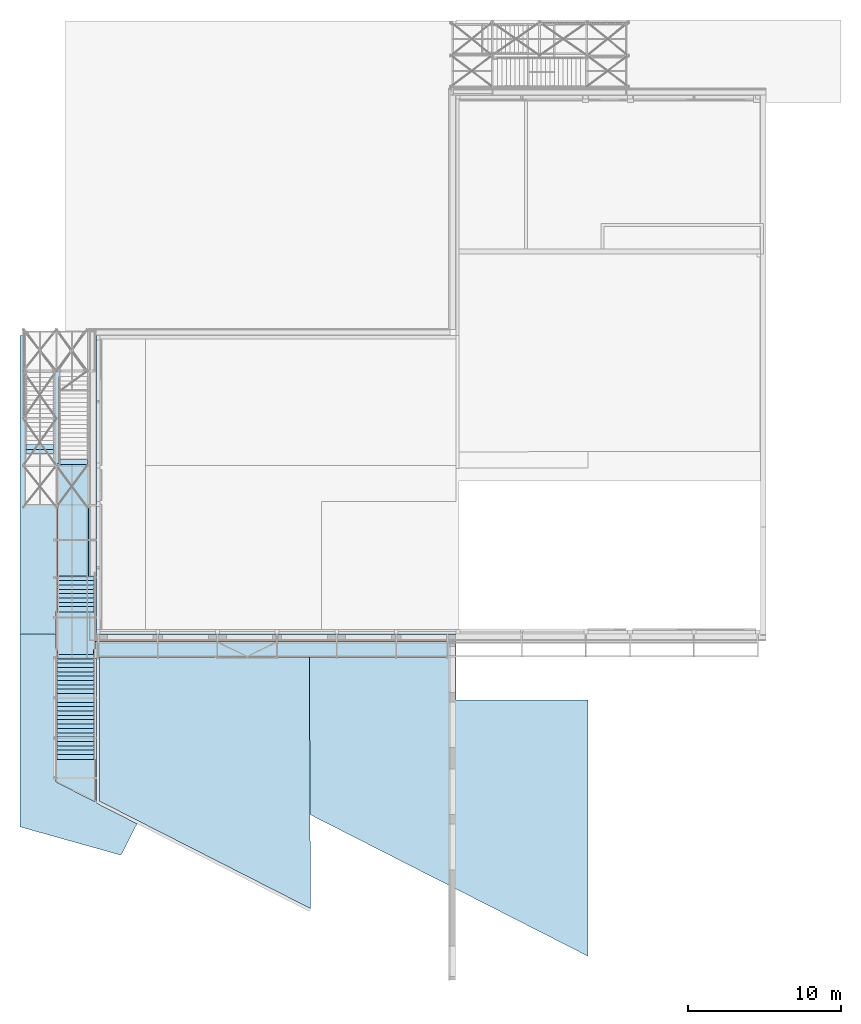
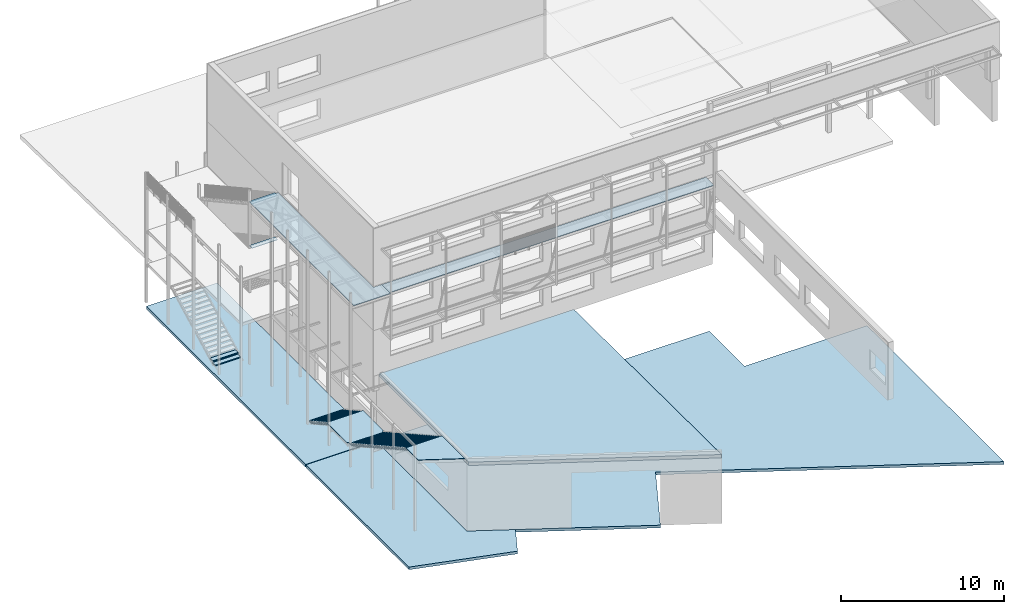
# One storey, part 57 of 78: 40 plates, 4 slabs, 44 elements without a shape of their own.
"""IFC2X3 building model written with IfcOpenShell, lengths in millimetres."""

from ifc_helpers import new_model, si_unit, frame, origin_with_axes, place, context, subcontext, project, spatial, polyline, outline, extrude, material, type_object, element, aggregate, save


model = new_model("IFC2X3")

# Units and contexts
model_context = context("Model", 3, precision=1e-05, world=origin_with_axes())
body_context = subcontext(model_context, "Body", "Model", "MODEL_VIEW")
ifc_project = project(units=[si_unit("LENGTHUNIT", "METRE", prefix="MILLI"), si_unit("AREAUNIT", "SQUARE_METRE"), si_unit("VOLUMEUNIT", "CUBIC_METRE"), si_unit("MASSUNIT", "GRAM", prefix="KILO"), si_unit("TIMEUNIT", "SECOND"), si_unit("PLANEANGLEUNIT", "RADIAN"), si_unit("SOLIDANGLEUNIT", "STERADIAN"), si_unit("THERMODYNAMICTEMPERATUREUNIT", "DEGREE_CELSIUS"), si_unit("LUMINOUSINTENSITYUNIT", "LUMEN")], contexts=[model_context])

# Site, building, storey
site_placement = place(None, origin_with_axes())
site = spatial("IfcSite", under=ifc_project, at=site_placement, Name="Site", CompositionType="ELEMENT")
building_placement = place(site_placement, origin_with_axes())
building = spatial("IfcBuilding", under=site, at=building_placement, Name="Undefined", CompositionType="ELEMENT")
storey_placement = place(building_placement, origin_with_axes())
storey = spatial("IfcBuildingStorey", under=building, at=storey_placement, Name="Undefined", CompositionType="ELEMENT", Elevation=0.0)

# Assembly, plate
assembly_1_placement = place(storey_placement, origin_with_axes())
assembly_1 = element("IfcElementAssembly", 1, at=assembly_1_placement, inside=storey, AssemblyPlace="NOTDEFINED", PredefinedType="RIGID_FRAME")
ifc_material_1 = material(Name="STEEL/S235JR")
plate_type_1 = type_object("IfcPlateType", Name="PL30*2885", PredefinedType="NOTDEFINED")
plate_1_placement = place(assembly_1_placement, frame((-30696.4300000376, -5607.00405367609, 149410.040013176), z_axis=(0.0, 0.0, 1.0), x_axis=(-1.0, 0.0, 0.0)))
plate_1 = element("IfcPlate", 2, at=plate_1_placement, type_object=plate_type_1, material=ifc_material_1, Name="CAILLEBOTIS", ObjectType="PL30*2885", context=body_context, shape_type="SweptSolid", body=[
    extrude(outline(polyline([(0.0, 0.0), (2559.99999996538, -7.93079379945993e-10), (2560.00000040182, 2496.22999985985), (2475.00000045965, 2496.22999983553), (2475.00000051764, 2884.99999977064), (85.0000005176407, 2885.00000154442), (85.0000003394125, 2496.23000029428), (3.97216354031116e-07, 2496.23000614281), (0.0, 0.0)])), frame((0.0, 0.0, -15.0), z_axis=(0.0, 0.0, 1.0), x_axis=(1.0, 0.0, 0.0)), (0.0, 0.0, 1.0), 30.0),
])
aggregate(assembly_1, [plate_1])

assembly_2_placement = place(storey_placement, origin_with_axes())
assembly_2 = element("IfcElementAssembly", 3, at=assembly_2_placement, inside=storey, Name="MARCHE", AssemblyPlace="NOTDEFINED", PredefinedType="RIGID_FRAME")
plate_type_2 = type_object("IfcPlateType", Name="PL1800*70", PredefinedType="NOTDEFINED")
plate_2_placement = place(assembly_2_placement, frame((-32082.8599999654, 4002.99999995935, 156542.540000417), z_axis=(-1.0, 0.0, 0.0), x_axis=(0.0, 1.0, 0.0)))
plate_2 = element("IfcPlate", 4, at=plate_2_placement, type_object=plate_type_2, material=ifc_material_1, Name="MARCHE", ObjectType="PL1800*70", context=body_context, shape_type="SweptSolid", body=[
    extrude(outline(polyline([(0.0, 0.0), (330.0, 0.0), (330.0, 70.0), (40.0, 70.0), (0.0, 40.0), (0.0, 0.0)])), frame((0.0, 0.0, -900.0), z_axis=(0.0, 0.0, 1.0), x_axis=(1.0, 0.0, 0.0)), (0.0, 0.0, 1.0), 1800.0),
])
aggregate(assembly_2, [plate_2])

assembly_3_placement = place(storey_placement, origin_with_axes())
assembly_3 = element("IfcElementAssembly", 5, at=assembly_3_placement, inside=storey, Name="MARCHE", AssemblyPlace="NOTDEFINED", PredefinedType="RIGID_FRAME")
plate_3_placement = place(assembly_3_placement, frame((-32082.8599999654, 4002.99999995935, 159842.540000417), z_axis=(-1.0, 0.0, 0.0), x_axis=(0.0, 1.0, 0.0)))
plate_3 = element("IfcPlate", 6, at=plate_3_placement, type_object=plate_type_2, material=ifc_material_1, Name="MARCHE", ObjectType="PL1800*70", context=body_context, shape_type="SweptSolid", body=[
    extrude(outline(polyline([(0.0, 0.0), (330.0, 0.0), (330.0, 70.0), (40.0, 70.0), (0.0, 40.0), (0.0, 0.0)])), frame((0.0, 0.0, -900.0), z_axis=(0.0, 0.0, 1.0), x_axis=(1.0, 0.0, 0.0)), (0.0, 0.0, 1.0), 1800.0),
])
aggregate(assembly_3, [plate_3])

assembly_4_placement = place(storey_placement, origin_with_axes())
assembly_4 = element("IfcElementAssembly", 7, at=assembly_4_placement, inside=storey, Name="MARCHE", AssemblyPlace="NOTDEFINED", PredefinedType="RIGID_FRAME")
plate_4_placement = place(assembly_4_placement, frame((-34301.4299999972, 5305.00000000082, 148299.040000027), z_axis=(1.0, 0.0, 0.0), x_axis=(0.0, -1.0, 0.0)))
plate_4 = element("IfcPlate", 8, at=plate_4_placement, type_object=plate_type_2, material=ifc_material_1, Name="MARCHE", ObjectType="PL1800*70", context=body_context, shape_type="SweptSolid", body=[
    extrude(outline(polyline([(0.0, 0.0), (330.0, 0.0), (330.0, 70.0), (40.0, 70.0), (0.0, 40.0), (0.0, 0.0)])), frame((0.0, 0.0, -900.0), z_axis=(0.0, 0.0, 1.0), x_axis=(1.0, 0.0, 0.0)), (0.0, 0.0, 1.0), 1800.0),
])
aggregate(assembly_4, [plate_4])

assembly_5_placement = place(storey_placement, origin_with_axes())
assembly_5 = element("IfcElementAssembly", 9, at=assembly_5_placement, inside=storey, Name="MARCHE", AssemblyPlace="NOTDEFINED", PredefinedType="RIGID_FRAME")
plate_5_placement = place(assembly_5_placement, frame((-34301.429999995, 5011.00000000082, 148146.040000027), z_axis=(1.0, 0.0, 0.0), x_axis=(0.0, -1.0, 0.0)))
plate_5 = element("IfcPlate", 10, at=plate_5_placement, type_object=plate_type_2, material=ifc_material_1, Name="MARCHE", ObjectType="PL1800*70", context=body_context, shape_type="SweptSolid", body=[
    extrude(outline(polyline([(0.0, 0.0), (330.0, 0.0), (330.0, 70.0), (40.0, 70.0), (0.0, 40.0), (0.0, 0.0)])), frame((0.0, 0.0, -900.0), z_axis=(0.0, 0.0, 1.0), x_axis=(1.0, 0.0, 0.0)), (0.0, 0.0, 1.0), 1800.0),
])
aggregate(assembly_5, [plate_5])

assembly_6_placement = place(storey_placement, origin_with_axes())
assembly_6 = element("IfcElementAssembly", 11, at=assembly_6_placement, inside=storey, AssemblyPlace="NOTDEFINED", PredefinedType="RIGID_FRAME")
plate_type_3 = type_object("IfcPlateType", Name="PL30*2560", PredefinedType="NOTDEFINED")
plate_6_placement = place(assembly_6_placement, frame((-33256.4300000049, -15282.0004629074, 153385.040012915), z_axis=(0.0, 0.0, 1.0), x_axis=(0.0, -1.0, 0.0)))
plate_6 = element("IfcPlate", 12, at=plate_6_placement, type_object=plate_type_3, material=ifc_material_1, Name="CAILLEBOTIS", ObjectType="PL30*2560", context=body_context, shape_type="SweptSolid", body=[
    extrude(outline(polyline([(0.0, 0.0), (1505.6095371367, 7.27595761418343e-12), (2808.5375033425, 2559.99999992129), (7.00389682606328e-06, 2559.9999999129), (0.0, 0.0)])), frame((0.0, 0.0, -15.0), z_axis=(0.0, 0.0, 1.0), x_axis=(1.0, 0.0, 0.0)), (0.0, 0.0, 1.0), 30.0),
])
aggregate(assembly_6, [plate_6])

assembly_7_placement = place(storey_placement, origin_with_axes())
assembly_7 = element("IfcElementAssembly", 13, at=assembly_7_placement, inside=storey, Name="MARCHE", AssemblyPlace="NOTDEFINED", PredefinedType="RIGID_FRAME")
plate_type_4 = type_object("IfcPlateType", Name="PL2400*70", PredefinedType="NOTDEFINED")
plate_7_placement = place(assembly_7_placement, frame((-31976.4300000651, -15327.0040538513, 153241.040013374), z_axis=(-1.0, 0.0, 0.0), x_axis=(0.0, 1.0, 0.0)))
plate_7 = element("IfcPlate", 14, at=plate_7_placement, type_object=plate_type_4, material=ifc_material_1, Name="MARCHE", ObjectType="PL2400*70", context=body_context, shape_type="SweptSolid", body=[
    extrude(outline(polyline([(0.0, 0.0), (330.0, 0.0), (330.0, 70.0), (40.0, 70.0), (0.0, 40.0), (0.0, 0.0)])), frame((0.0, 0.0, -1200.0), z_axis=(0.0, 0.0, 1.0), x_axis=(1.0, 0.0, 0.0)), (0.0, 0.0, 1.0), 2400.0),
])
aggregate(assembly_7, [plate_7])

assembly_8_placement = place(storey_placement, origin_with_axes())
assembly_8 = element("IfcElementAssembly", 15, at=assembly_8_placement, inside=storey, Name="MARCHE", AssemblyPlace="NOTDEFINED", PredefinedType="RIGID_FRAME")
plate_8_placement = place(assembly_8_placement, frame((-31976.4300000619, -15042.0040538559, 153082.040013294), z_axis=(-1.0, 0.0, 0.0), x_axis=(0.0, 1.0, 0.0)))
plate_8 = element("IfcPlate", 16, at=plate_8_placement, type_object=plate_type_4, material=ifc_material_1, Name="MARCHE", ObjectType="PL2400*70", context=body_context, shape_type="SweptSolid", body=[
    extrude(outline(polyline([(0.0, 0.0), (330.0, 0.0), (330.0, 70.0), (40.0, 70.0), (0.0, 40.0), (0.0, 0.0)])), frame((0.0, 0.0, -1200.0), z_axis=(0.0, 0.0, 1.0), x_axis=(1.0, 0.0, 0.0)), (0.0, 0.0, 1.0), 2400.0),
])
aggregate(assembly_8, [plate_8])

assembly_9_placement = place(storey_placement, origin_with_axes())
assembly_9 = element("IfcElementAssembly", 17, at=assembly_9_placement, inside=storey, Name="MARCHE", AssemblyPlace="NOTDEFINED", PredefinedType="RIGID_FRAME")
plate_9_placement = place(assembly_9_placement, frame((-31976.4300000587, -14757.0040538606, 152923.040013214), z_axis=(-1.0, 0.0, 0.0), x_axis=(0.0, 1.0, 0.0)))
plate_9 = element("IfcPlate", 18, at=plate_9_placement, type_object=plate_type_4, material=ifc_material_1, Name="MARCHE", ObjectType="PL2400*70", context=body_context, shape_type="SweptSolid", body=[
    extrude(outline(polyline([(0.0, 0.0), (330.0, 0.0), (330.0, 70.0), (40.0, 70.0), (0.0, 40.0), (0.0, 0.0)])), frame((0.0, 0.0, -1200.0), z_axis=(0.0, 0.0, 1.0), x_axis=(1.0, 0.0, 0.0)), (0.0, 0.0, 1.0), 2400.0),
])
aggregate(assembly_9, [plate_9])

assembly_10_placement = place(storey_placement, origin_with_axes())
assembly_10 = element("IfcElementAssembly", 19, at=assembly_10_placement, inside=storey, Name="MARCHE", AssemblyPlace="NOTDEFINED", PredefinedType="RIGID_FRAME")
plate_10_placement = place(assembly_10_placement, frame((-31976.4300000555, -14472.0040538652, 152764.040013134), z_axis=(-1.0, 0.0, 0.0), x_axis=(0.0, 1.0, 0.0)))
plate_10 = element("IfcPlate", 20, at=plate_10_placement, type_object=plate_type_4, material=ifc_material_1, Name="MARCHE", ObjectType="PL2400*70", context=body_context, shape_type="SweptSolid", body=[
    extrude(outline(polyline([(0.0, 0.0), (330.0, 0.0), (330.0, 70.0), (40.0, 70.0), (0.0, 40.0), (0.0, 0.0)])), frame((0.0, 0.0, -1200.0), z_axis=(0.0, 0.0, 1.0), x_axis=(1.0, 0.0, 0.0)), (0.0, 0.0, 1.0), 2400.0),
])
aggregate(assembly_10, [plate_10])

assembly_11_placement = place(storey_placement, origin_with_axes())
assembly_11 = element("IfcElementAssembly", 21, at=assembly_11_placement, inside=storey, Name="MARCHE", AssemblyPlace="NOTDEFINED", PredefinedType="RIGID_FRAME")
plate_11_placement = place(assembly_11_placement, frame((-31976.4300000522, -14187.0040538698, 152605.040013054), z_axis=(-1.0, 0.0, 0.0), x_axis=(0.0, 1.0, 0.0)))
plate_11 = element("IfcPlate", 22, at=plate_11_placement, type_object=plate_type_4, material=ifc_material_1, Name="MARCHE", ObjectType="PL2400*70", context=body_context, shape_type="SweptSolid", body=[
    extrude(outline(polyline([(0.0, 0.0), (330.0, 0.0), (330.0, 70.0), (40.0, 70.0), (0.0, 40.0), (0.0, 0.0)])), frame((0.0, 0.0, -1200.0), z_axis=(0.0, 0.0, 1.0), x_axis=(1.0, 0.0, 0.0)), (0.0, 0.0, 1.0), 2400.0),
])
aggregate(assembly_11, [plate_11])

assembly_12_placement = place(storey_placement, origin_with_axes())
assembly_12 = element("IfcElementAssembly", 23, at=assembly_12_placement, inside=storey, Name="MARCHE", AssemblyPlace="NOTDEFINED", PredefinedType="RIGID_FRAME")
plate_12_placement = place(assembly_12_placement, frame((-31976.430000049, -13902.0040538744, 152446.040012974), z_axis=(-1.0, 0.0, 0.0), x_axis=(0.0, 1.0, 0.0)))
plate_12 = element("IfcPlate", 24, at=plate_12_placement, type_object=plate_type_4, material=ifc_material_1, Name="MARCHE", ObjectType="PL2400*70", context=body_context, shape_type="SweptSolid", body=[
    extrude(outline(polyline([(0.0, 0.0), (330.0, 0.0), (330.0, 70.0), (40.0, 70.0), (0.0, 40.0), (0.0, 0.0)])), frame((0.0, 0.0, -1200.0), z_axis=(0.0, 0.0, 1.0), x_axis=(1.0, 0.0, 0.0)), (0.0, 0.0, 1.0), 2400.0),
])
aggregate(assembly_12, [plate_12])

assembly_13_placement = place(storey_placement, origin_with_axes())
assembly_13 = element("IfcElementAssembly", 25, at=assembly_13_placement, inside=storey, Name="MARCHE", AssemblyPlace="NOTDEFINED", PredefinedType="RIGID_FRAME")
plate_13_placement = place(assembly_13_placement, frame((-31976.4300000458, -13617.0040538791, 152287.040012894), z_axis=(-1.0, 0.0, 0.0), x_axis=(0.0, 1.0, 0.0)))
plate_13 = element("IfcPlate", 26, at=plate_13_placement, type_object=plate_type_4, material=ifc_material_1, Name="MARCHE", ObjectType="PL2400*70", context=body_context, shape_type="SweptSolid", body=[
    extrude(outline(polyline([(0.0, 0.0), (330.0, 0.0), (330.0, 70.0), (40.0, 70.0), (0.0, 40.0), (0.0, 0.0)])), frame((0.0, 0.0, -1200.0), z_axis=(0.0, 0.0, 1.0), x_axis=(1.0, 0.0, 0.0)), (0.0, 0.0, 1.0), 2400.0),
])
aggregate(assembly_13, [plate_13])

assembly_14_placement = place(storey_placement, origin_with_axes())
assembly_14 = element("IfcElementAssembly", 27, at=assembly_14_placement, inside=storey, Name="MARCHE", AssemblyPlace="NOTDEFINED", PredefinedType="RIGID_FRAME")
plate_14_placement = place(assembly_14_placement, frame((-31976.4300000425, -13332.0040538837, 152128.040012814), z_axis=(-1.0, 0.0, 0.0), x_axis=(0.0, 1.0, 0.0)))
plate_14 = element("IfcPlate", 28, at=plate_14_placement, type_object=plate_type_4, material=ifc_material_1, Name="MARCHE", ObjectType="PL2400*70", context=body_context, shape_type="SweptSolid", body=[
    extrude(outline(polyline([(0.0, 0.0), (330.0, 0.0), (330.0, 70.0), (40.0, 70.0), (0.0, 40.0), (0.0, 0.0)])), frame((0.0, 0.0, -1200.0), z_axis=(0.0, 0.0, 1.0), x_axis=(1.0, 0.0, 0.0)), (0.0, 0.0, 1.0), 2400.0),
])
aggregate(assembly_14, [plate_14])

assembly_15_placement = place(storey_placement, origin_with_axes())
assembly_15 = element("IfcElementAssembly", 29, at=assembly_15_placement, inside=storey, Name="MARCHE", AssemblyPlace="NOTDEFINED", PredefinedType="RIGID_FRAME")
plate_15_placement = place(assembly_15_placement, frame((-31976.4300000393, -13047.0040538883, 151969.040012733), z_axis=(-1.0, 0.0, 0.0), x_axis=(0.0, 1.0, 0.0)))
plate_15 = element("IfcPlate", 30, at=plate_15_placement, type_object=plate_type_4, material=ifc_material_1, Name="MARCHE", ObjectType="PL2400*70", context=body_context, shape_type="SweptSolid", body=[
    extrude(outline(polyline([(0.0, 0.0), (330.0, 0.0), (330.0, 70.0), (40.0, 70.0), (0.0, 40.0), (0.0, 0.0)])), frame((0.0, 0.0, -1200.0), z_axis=(0.0, 0.0, 1.0), x_axis=(1.0, 0.0, 0.0)), (0.0, 0.0, 1.0), 2400.0),
])
aggregate(assembly_15, [plate_15])

assembly_16_placement = place(storey_placement, origin_with_axes())
assembly_16 = element("IfcElementAssembly", 31, at=assembly_16_placement, inside=storey, Name="MARCHE", AssemblyPlace="NOTDEFINED", PredefinedType="RIGID_FRAME")
plate_16_placement = place(assembly_16_placement, frame((-31976.4300000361, -12762.0040538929, 151810.040012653), z_axis=(-1.0, 0.0, 0.0), x_axis=(0.0, 1.0, 0.0)))
plate_16 = element("IfcPlate", 32, at=plate_16_placement, type_object=plate_type_4, material=ifc_material_1, Name="MARCHE", ObjectType="PL2400*70", context=body_context, shape_type="SweptSolid", body=[
    extrude(outline(polyline([(0.0, 0.0), (330.0, 0.0), (330.0, 70.0), (40.0, 70.0), (0.0, 40.0), (0.0, 0.0)])), frame((0.0, 0.0, -1200.0), z_axis=(0.0, 0.0, 1.0), x_axis=(1.0, 0.0, 0.0)), (0.0, 0.0, 1.0), 2400.0),
])
aggregate(assembly_16, [plate_16])

assembly_17_placement = place(storey_placement, origin_with_axes())
assembly_17 = element("IfcElementAssembly", 33, at=assembly_17_placement, inside=storey, Name="MARCHE", AssemblyPlace="NOTDEFINED", PredefinedType="RIGID_FRAME")
plate_17_placement = place(assembly_17_placement, frame((-31976.4300000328, -12477.0040538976, 151651.040012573), z_axis=(-1.0, 0.0, 0.0), x_axis=(0.0, 1.0, 0.0)))
plate_17 = element("IfcPlate", 34, at=plate_17_placement, type_object=plate_type_4, material=ifc_material_1, Name="MARCHE", ObjectType="PL2400*70", context=body_context, shape_type="SweptSolid", body=[
    extrude(outline(polyline([(0.0, 0.0), (330.0, 0.0), (330.0, 70.0), (40.0, 70.0), (0.0, 40.0), (0.0, 0.0)])), frame((0.0, 0.0, -1200.0), z_axis=(0.0, 0.0, 1.0), x_axis=(1.0, 0.0, 0.0)), (0.0, 0.0, 1.0), 2400.0),
])
aggregate(assembly_17, [plate_17])

assembly_18_placement = place(storey_placement, origin_with_axes())
assembly_18 = element("IfcElementAssembly", 35, at=assembly_18_placement, inside=storey, Name="MARCHE", AssemblyPlace="NOTDEFINED", PredefinedType="RIGID_FRAME")
plate_18_placement = place(assembly_18_placement, frame((-31976.4300000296, -12192.0040539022, 151492.040012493), z_axis=(-1.0, 0.0, 0.0), x_axis=(0.0, 1.0, 0.0)))
plate_18 = element("IfcPlate", 36, at=plate_18_placement, type_object=plate_type_4, material=ifc_material_1, Name="MARCHE", ObjectType="PL2400*70", context=body_context, shape_type="SweptSolid", body=[
    extrude(outline(polyline([(0.0, 0.0), (330.0, 0.0), (330.0, 70.0), (40.0, 70.0), (0.0, 40.0), (0.0, 0.0)])), frame((0.0, 0.0, -1200.0), z_axis=(0.0, 0.0, 1.0), x_axis=(1.0, 0.0, 0.0)), (0.0, 0.0, 1.0), 2400.0),
])
aggregate(assembly_18, [plate_18])

assembly_19_placement = place(storey_placement, origin_with_axes())
assembly_19 = element("IfcElementAssembly", 37, at=assembly_19_placement, inside=storey, Name="MARCHE", AssemblyPlace="NOTDEFINED", PredefinedType="RIGID_FRAME")
plate_19_placement = place(assembly_19_placement, frame((-31976.4300000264, -11907.0040539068, 151333.040012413), z_axis=(-1.0, 0.0, 0.0), x_axis=(0.0, 1.0, 0.0)))
plate_19 = element("IfcPlate", 38, at=plate_19_placement, type_object=plate_type_4, material=ifc_material_1, Name="MARCHE", ObjectType="PL2400*70", context=body_context, shape_type="SweptSolid", body=[
    extrude(outline(polyline([(0.0, 0.0), (330.0, 0.0), (330.0, 70.0), (40.0, 70.0), (0.0, 40.0), (0.0, 0.0)])), frame((0.0, 0.0, -1200.0), z_axis=(0.0, 0.0, 1.0), x_axis=(1.0, 0.0, 0.0)), (0.0, 0.0, 1.0), 2400.0),
])
aggregate(assembly_19, [plate_19])

assembly_20_placement = place(storey_placement, origin_with_axes())
assembly_20 = element("IfcElementAssembly", 39, at=assembly_20_placement, inside=storey, Name="MARCHE", AssemblyPlace="NOTDEFINED", PredefinedType="RIGID_FRAME")
plate_20_placement = place(assembly_20_placement, frame((-31976.4300000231, -11622.0040539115, 151174.040012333), z_axis=(-1.0, 0.0, 0.0), x_axis=(0.0, 1.0, 0.0)))
plate_20 = element("IfcPlate", 40, at=plate_20_placement, type_object=plate_type_4, material=ifc_material_1, Name="MARCHE", ObjectType="PL2400*70", context=body_context, shape_type="SweptSolid", body=[
    extrude(outline(polyline([(0.0, 0.0), (330.0, 0.0), (330.0, 70.0), (40.0, 70.0), (0.0, 40.0), (0.0, 0.0)])), frame((0.0, 0.0, -1200.0), z_axis=(0.0, 0.0, 1.0), x_axis=(1.0, 0.0, 0.0)), (0.0, 0.0, 1.0), 2400.0),
])
aggregate(assembly_20, [plate_20])

assembly_21_placement = place(storey_placement, origin_with_axes())
assembly_21 = element("IfcElementAssembly", 41, at=assembly_21_placement, inside=storey, Name="MARCHE", AssemblyPlace="NOTDEFINED", PredefinedType="RIGID_FRAME")
plate_21_placement = place(assembly_21_placement, frame((-31976.4300000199, -11337.0040539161, 151015.040012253), z_axis=(-1.0, 0.0, 0.0), x_axis=(0.0, 1.0, 0.0)))
plate_21 = element("IfcPlate", 42, at=plate_21_placement, type_object=plate_type_4, material=ifc_material_1, Name="MARCHE", ObjectType="PL2400*70", context=body_context, shape_type="SweptSolid", body=[
    extrude(outline(polyline([(0.0, 0.0), (330.0, 0.0), (330.0, 70.0), (40.0, 70.0), (0.0, 40.0), (0.0, 0.0)])), frame((0.0, 0.0, -1200.0), z_axis=(0.0, 0.0, 1.0), x_axis=(1.0, 0.0, 0.0)), (0.0, 0.0, 1.0), 2400.0),
])
aggregate(assembly_21, [plate_21])

assembly_22_placement = place(storey_placement, origin_with_axes())
assembly_22 = element("IfcElementAssembly", 43, at=assembly_22_placement, inside=storey, Name="MARCHE", AssemblyPlace="NOTDEFINED", PredefinedType="RIGID_FRAME")
plate_22_placement = place(assembly_22_placement, frame((-31976.4300000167, -11052.0040539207, 150856.040012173), z_axis=(-1.0, 0.0, 0.0), x_axis=(0.0, 1.0, 0.0)))
plate_22 = element("IfcPlate", 44, at=plate_22_placement, type_object=plate_type_4, material=ifc_material_1, Name="MARCHE", ObjectType="PL2400*70", context=body_context, shape_type="SweptSolid", body=[
    extrude(outline(polyline([(0.0, 0.0), (330.0, 0.0), (330.0, 70.0), (40.0, 70.0), (0.0, 40.0), (0.0, 0.0)])), frame((0.0, 0.0, -1200.0), z_axis=(0.0, 0.0, 1.0), x_axis=(1.0, 0.0, 0.0)), (0.0, 0.0, 1.0), 2400.0),
])
aggregate(assembly_22, [plate_22])

assembly_23_placement = place(storey_placement, origin_with_axes())
assembly_23 = element("IfcElementAssembly", 45, at=assembly_23_placement, inside=storey, Name="MARCHE", AssemblyPlace="NOTDEFINED", PredefinedType="RIGID_FRAME")
plate_23_placement = place(assembly_23_placement, frame((-31976.4300000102, -10482.00405393, 150538.040012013), z_axis=(-1.0, 0.0, 0.0), x_axis=(0.0, 1.0, 0.0)))
plate_23 = element("IfcPlate", 46, at=plate_23_placement, type_object=plate_type_4, material=ifc_material_1, Name="MARCHE", ObjectType="PL2400*70", context=body_context, shape_type="SweptSolid", body=[
    extrude(outline(polyline([(0.0, 0.0), (330.0, 0.0), (330.0, 70.0), (40.0, 70.0), (0.0, 40.0), (0.0, 0.0)])), frame((0.0, 0.0, -1200.0), z_axis=(0.0, 0.0, 1.0), x_axis=(1.0, 0.0, 0.0)), (0.0, 0.0, 1.0), 2400.0),
])
aggregate(assembly_23, [plate_23])

assembly_24_placement = place(storey_placement, origin_with_axes())
assembly_24 = element("IfcElementAssembly", 47, at=assembly_24_placement, inside=storey, Name="MARCHE", AssemblyPlace="NOTDEFINED", PredefinedType="RIGID_FRAME")
plate_24_placement = place(assembly_24_placement, frame((-31976.430000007, -10197.0040539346, 150379.040011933), z_axis=(-1.0, 0.0, 0.0), x_axis=(0.0, 1.0, 0.0)))
plate_24 = element("IfcPlate", 48, at=plate_24_placement, type_object=plate_type_4, material=ifc_material_1, Name="MARCHE", ObjectType="PL2400*70", context=body_context, shape_type="SweptSolid", body=[
    extrude(outline(polyline([(0.0, 0.0), (330.0, 0.0), (330.0, 70.0), (40.0, 70.0), (0.0, 40.0), (0.0, 0.0)])), frame((0.0, 0.0, -1200.0), z_axis=(0.0, 0.0, 1.0), x_axis=(1.0, 0.0, 0.0)), (0.0, 0.0, 1.0), 2400.0),
])
aggregate(assembly_24, [plate_24])

assembly_25_placement = place(storey_placement, origin_with_axes())
assembly_25 = element("IfcElementAssembly", 49, at=assembly_25_placement, inside=storey, Name="MARCHE", AssemblyPlace="NOTDEFINED", PredefinedType="RIGID_FRAME")
plate_25_placement = place(assembly_25_placement, frame((-31976.4300000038, -9912.00405393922, 150220.040011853), z_axis=(-1.0, 0.0, 0.0), x_axis=(0.0, 1.0, 0.0)))
plate_25 = element("IfcPlate", 50, at=plate_25_placement, type_object=plate_type_4, material=ifc_material_1, Name="MARCHE", ObjectType="PL2400*70", context=body_context, shape_type="SweptSolid", body=[
    extrude(outline(polyline([(0.0, 0.0), (330.0, 0.0), (330.0, 70.0), (40.0, 70.0), (0.0, 40.0), (0.0, 0.0)])), frame((0.0, 0.0, -1200.0), z_axis=(0.0, 0.0, 1.0), x_axis=(1.0, 0.0, 0.0)), (0.0, 0.0, 1.0), 2400.0),
])
aggregate(assembly_25, [plate_25])

assembly_26_placement = place(storey_placement, origin_with_axes())
assembly_26 = element("IfcElementAssembly", 51, at=assembly_26_placement, inside=storey, Name="MARCHE", AssemblyPlace="NOTDEFINED", PredefinedType="RIGID_FRAME")
plate_26_placement = place(assembly_26_placement, frame((-31976.4300000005, -9627.00405394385, 150061.040011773), z_axis=(-1.0, 0.0, 0.0), x_axis=(0.0, 1.0, 0.0)))
plate_26 = element("IfcPlate", 52, at=plate_26_placement, type_object=plate_type_4, material=ifc_material_1, Name="MARCHE", ObjectType="PL2400*70", context=body_context, shape_type="SweptSolid", body=[
    extrude(outline(polyline([(0.0, 0.0), (330.0, 0.0), (330.0, 70.0), (40.0, 70.0), (0.0, 40.0), (0.0, 0.0)])), frame((0.0, 0.0, -1200.0), z_axis=(0.0, 0.0, 1.0), x_axis=(1.0, 0.0, 0.0)), (0.0, 0.0, 1.0), 2400.0),
])
aggregate(assembly_26, [plate_26])

assembly_27_placement = place(storey_placement, origin_with_axes())
assembly_27 = element("IfcElementAssembly", 53, at=assembly_27_placement, inside=storey, Name="MARCHE", AssemblyPlace="NOTDEFINED", PredefinedType="RIGID_FRAME")
plate_27_placement = place(assembly_27_placement, frame((-31976.4299999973, -9342.00405394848, 149902.040011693), z_axis=(-1.0, 0.0, 0.0), x_axis=(0.0, 1.0, 0.0)))
plate_27 = element("IfcPlate", 54, at=plate_27_placement, type_object=plate_type_4, material=ifc_material_1, Name="MARCHE", ObjectType="PL2400*70", context=body_context, shape_type="SweptSolid", body=[
    extrude(outline(polyline([(0.0, 0.0), (330.0, 0.0), (330.0, 70.0), (40.0, 70.0), (0.0, 40.0), (0.0, 0.0)])), frame((0.0, 0.0, -1200.0), z_axis=(0.0, 0.0, 1.0), x_axis=(1.0, 0.0, 0.0)), (0.0, 0.0, 1.0), 2400.0),
])
aggregate(assembly_27, [plate_27])

assembly_28_placement = place(storey_placement, origin_with_axes())
assembly_28 = element("IfcElementAssembly", 55, at=assembly_28_placement, inside=storey, Name="MARCHE", AssemblyPlace="NOTDEFINED", PredefinedType="RIGID_FRAME")
plate_28_placement = place(assembly_28_placement, frame((-31976.4299999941, -9057.00405395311, 149743.040011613), z_axis=(-1.0, 0.0, 0.0), x_axis=(0.0, 1.0, 0.0)))
plate_28 = element("IfcPlate", 56, at=plate_28_placement, type_object=plate_type_4, material=ifc_material_1, Name="MARCHE", ObjectType="PL2400*70", context=body_context, shape_type="SweptSolid", body=[
    extrude(outline(polyline([(0.0, 0.0), (330.0, 0.0), (330.0, 70.0), (40.0, 70.0), (0.0, 40.0), (0.0, 0.0)])), frame((0.0, 0.0, -1200.0), z_axis=(0.0, 0.0, 1.0), x_axis=(1.0, 0.0, 0.0)), (0.0, 0.0, 1.0), 2400.0),
])
aggregate(assembly_28, [plate_28])

assembly_29_placement = place(storey_placement, origin_with_axes())
assembly_29 = element("IfcElementAssembly", 57, at=assembly_29_placement, inside=storey, Name="MARCHE", AssemblyPlace="NOTDEFINED", PredefinedType="RIGID_FRAME")
plate_29_placement = place(assembly_29_placement, frame((-31976.4299999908, -8772.00405395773, 149584.040011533), z_axis=(-1.0, 0.0, 0.0), x_axis=(0.0, 1.0, 0.0)))
plate_29 = element("IfcPlate", 58, at=plate_29_placement, type_object=plate_type_4, material=ifc_material_1, Name="MARCHE", ObjectType="PL2400*70", context=body_context, shape_type="SweptSolid", body=[
    extrude(outline(polyline([(0.0, 0.0), (330.0, 0.0), (330.0, 70.0), (40.0, 70.0), (0.0, 40.0), (0.0, 0.0)])), frame((0.0, 0.0, -1200.0), z_axis=(0.0, 0.0, 1.0), x_axis=(1.0, 0.0, 0.0)), (0.0, 0.0, 1.0), 2400.0),
])
aggregate(assembly_29, [plate_29])

assembly_30_placement = place(storey_placement, origin_with_axes())
assembly_30 = element("IfcElementAssembly", 59, at=assembly_30_placement, inside=storey, Name="MARCHE", AssemblyPlace="NOTDEFINED", PredefinedType="RIGID_FRAME")
plate_30_placement = place(assembly_30_placement, frame((-31976.4300000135, -10767.0040539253, 150697.040012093), z_axis=(-1.0, 0.0, 0.0), x_axis=(0.0, 1.0, 0.0)))
plate_30 = element("IfcPlate", 60, at=plate_30_placement, type_object=plate_type_4, material=ifc_material_1, Name="MARCHE", ObjectType="PL2400*70", context=body_context, shape_type="SweptSolid", body=[
    extrude(outline(polyline([(0.0, 0.0), (330.0, 0.0), (330.0, 70.0), (40.0, 70.0), (0.0, 40.0), (0.0, 0.0)])), frame((0.0, 0.0, -1200.0), z_axis=(0.0, 0.0, 1.0), x_axis=(1.0, 0.0, 0.0)), (0.0, 0.0, 1.0), 2400.0),
])
aggregate(assembly_30, [plate_30])

assembly_31_placement = place(storey_placement, origin_with_axes())
assembly_31 = element("IfcElementAssembly", 61, at=assembly_31_placement, inside=storey, Name="MARCHE", AssemblyPlace="NOTDEFINED", PredefinedType="RIGID_FRAME")
plate_31_placement = place(assembly_31_placement, frame((-31976.4299999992, -5367.00405392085, 149107.040012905), z_axis=(-1.0, 0.0, 0.0), x_axis=(0.0, 1.0, 0.0)))
plate_31 = element("IfcPlate", 62, at=plate_31_placement, type_object=plate_type_4, material=ifc_material_1, Name="MARCHE", ObjectType="PL2400*70", context=body_context, shape_type="SweptSolid", body=[
    extrude(outline(polyline([(0.0, 0.0), (330.0, 0.0), (330.0, 70.0), (40.0, 70.0), (0.0, 40.0), (0.0, 0.0)])), frame((0.0, 0.0, -1200.0), z_axis=(0.0, 0.0, 1.0), x_axis=(1.0, 0.0, 0.0)), (0.0, 0.0, 1.0), 2400.0),
])
aggregate(assembly_31, [plate_31])

assembly_32_placement = place(storey_placement, origin_with_axes())
assembly_32 = element("IfcElementAssembly", 63, at=assembly_32_placement, inside=storey, Name="MARCHE", AssemblyPlace="NOTDEFINED", PredefinedType="RIGID_FRAME")
plate_32_placement = place(assembly_32_placement, frame((-31976.4299999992, -5082.00405392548, 148948.040012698), z_axis=(-1.0, 0.0, 0.0), x_axis=(0.0, 1.0, 0.0)))
plate_32 = element("IfcPlate", 64, at=plate_32_placement, type_object=plate_type_4, material=ifc_material_1, Name="MARCHE", ObjectType="PL2400*70", context=body_context, shape_type="SweptSolid", body=[
    extrude(outline(polyline([(0.0, 0.0), (330.0, 0.0), (330.0, 70.0), (40.0, 70.0), (0.0, 40.0), (0.0, 0.0)])), frame((0.0, 0.0, -1200.0), z_axis=(0.0, 0.0, 1.0), x_axis=(1.0, 0.0, 0.0)), (0.0, 0.0, 1.0), 2400.0),
])
aggregate(assembly_32, [plate_32])

assembly_33_placement = place(storey_placement, origin_with_axes())
assembly_33 = element("IfcElementAssembly", 65, at=assembly_33_placement, inside=storey, Name="MARCHE", AssemblyPlace="NOTDEFINED", PredefinedType="RIGID_FRAME")
plate_33_placement = place(assembly_33_placement, frame((-31976.4299999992, -4797.00405393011, 148789.04001249), z_axis=(-1.0, 0.0, 0.0), x_axis=(0.0, 1.0, 0.0)))
plate_33 = element("IfcPlate", 66, at=plate_33_placement, type_object=plate_type_4, material=ifc_material_1, Name="MARCHE", ObjectType="PL2400*70", context=body_context, shape_type="SweptSolid", body=[
    extrude(outline(polyline([(0.0, 0.0), (330.0, 0.0), (330.0, 70.0), (40.0, 70.0), (0.0, 40.0), (0.0, 0.0)])), frame((0.0, 0.0, -1200.0), z_axis=(0.0, 0.0, 1.0), x_axis=(1.0, 0.0, 0.0)), (0.0, 0.0, 1.0), 2400.0),
])
aggregate(assembly_33, [plate_33])

assembly_34_placement = place(storey_placement, origin_with_axes())
assembly_34 = element("IfcElementAssembly", 67, at=assembly_34_placement, inside=storey, Name="MARCHE", AssemblyPlace="NOTDEFINED", PredefinedType="RIGID_FRAME")
plate_34_placement = place(assembly_34_placement, frame((-31976.4299999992, -4512.00405393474, 148630.040012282), z_axis=(-1.0, 0.0, 0.0), x_axis=(0.0, 1.0, 0.0)))
plate_34 = element("IfcPlate", 68, at=plate_34_placement, type_object=plate_type_4, material=ifc_material_1, Name="MARCHE", ObjectType="PL2400*70", context=body_context, shape_type="SweptSolid", body=[
    extrude(outline(polyline([(0.0, 0.0), (330.0, 0.0), (330.0, 70.0), (40.0, 70.0), (0.0, 40.0), (0.0, 0.0)])), frame((0.0, 0.0, -1200.0), z_axis=(0.0, 0.0, 1.0), x_axis=(1.0, 0.0, 0.0)), (0.0, 0.0, 1.0), 2400.0),
])
aggregate(assembly_34, [plate_34])

assembly_35_placement = place(storey_placement, origin_with_axes())
assembly_35 = element("IfcElementAssembly", 69, at=assembly_35_placement, inside=storey, Name="MARCHE", AssemblyPlace="NOTDEFINED", PredefinedType="RIGID_FRAME")
plate_35_placement = place(assembly_35_placement, frame((-31976.4299999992, -4227.00405393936, 148471.040012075), z_axis=(-1.0, 0.0, 0.0), x_axis=(0.0, 1.0, 0.0)))
plate_35 = element("IfcPlate", 70, at=plate_35_placement, type_object=plate_type_4, material=ifc_material_1, Name="MARCHE", ObjectType="PL2400*70", context=body_context, shape_type="SweptSolid", body=[
    extrude(outline(polyline([(0.0, 0.0), (330.0, 0.0), (330.0, 70.0), (40.0, 70.0), (0.0, 40.0), (0.0, 0.0)])), frame((0.0, 0.0, -1200.0), z_axis=(0.0, 0.0, 1.0), x_axis=(1.0, 0.0, 0.0)), (0.0, 0.0, 1.0), 2400.0),
])
aggregate(assembly_35, [plate_35])

assembly_36_placement = place(storey_placement, origin_with_axes())
assembly_36 = element("IfcElementAssembly", 71, at=assembly_36_placement, inside=storey, Name="MARCHE", AssemblyPlace="NOTDEFINED", PredefinedType="RIGID_FRAME")
plate_36_placement = place(assembly_36_placement, frame((-31976.4299999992, -3942.00405394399, 148312.040011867), z_axis=(-1.0, 0.0, 0.0), x_axis=(0.0, 1.0, 0.0)))
plate_36 = element("IfcPlate", 72, at=plate_36_placement, type_object=plate_type_4, material=ifc_material_1, Name="MARCHE", ObjectType="PL2400*70", context=body_context, shape_type="SweptSolid", body=[
    extrude(outline(polyline([(0.0, 0.0), (330.0, 0.0), (330.0, 70.0), (40.0, 70.0), (0.0, 40.0), (0.0, 0.0)])), frame((0.0, 0.0, -1200.0), z_axis=(0.0, 0.0, 1.0), x_axis=(1.0, 0.0, 0.0)), (0.0, 0.0, 1.0), 2400.0),
])
aggregate(assembly_36, [plate_36])

assembly_37_placement = place(storey_placement, origin_with_axes())
assembly_37 = element("IfcElementAssembly", 73, at=assembly_37_placement, inside=storey, Name="MARCHE", AssemblyPlace="NOTDEFINED", PredefinedType="RIGID_FRAME")
plate_37_placement = place(assembly_37_placement, frame((-31976.4299999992, -3657.00405394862, 148153.04001166), z_axis=(-1.0, 0.0, 0.0), x_axis=(0.0, 1.0, 0.0)))
plate_37 = element("IfcPlate", 74, at=plate_37_placement, type_object=plate_type_4, material=ifc_material_1, Name="MARCHE", ObjectType="PL2400*70", context=body_context, shape_type="SweptSolid", body=[
    extrude(outline(polyline([(0.0, 0.0), (330.0, 0.0), (330.0, 70.0), (40.0, 70.0), (0.0, 40.0), (0.0, 0.0)])), frame((0.0, 0.0, -1200.0), z_axis=(0.0, 0.0, 1.0), x_axis=(1.0, 0.0, 0.0)), (0.0, 0.0, 1.0), 2400.0),
])
aggregate(assembly_37, [plate_37])

assembly_38_placement = place(storey_placement, origin_with_axes())
assembly_38 = element("IfcElementAssembly", 75, at=assembly_38_placement, inside=storey, Name="MARCHE", AssemblyPlace="NOTDEFINED", PredefinedType="RIGID_FRAME")
plate_38_placement = place(assembly_38_placement, frame((-31976.4299999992, -5652.00405391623, 149266.040013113), z_axis=(-1.0, 0.0, 0.0), x_axis=(0.0, 1.0, 0.0)))
plate_38 = element("IfcPlate", 76, at=plate_38_placement, type_object=plate_type_4, material=ifc_material_1, Name="MARCHE", ObjectType="PL2400*70", context=body_context, shape_type="SweptSolid", body=[
    extrude(outline(polyline([(0.0, 0.0), (330.0, 0.0), (330.0, 70.0), (40.0, 70.0), (0.0, 40.0), (0.0, 0.0)])), frame((0.0, 0.0, -1200.0), z_axis=(0.0, 0.0, 1.0), x_axis=(1.0, 0.0, 0.0)), (0.0, 0.0, 1.0), 2400.0),
])
aggregate(assembly_38, [plate_38])

assembly_39_placement = place(storey_placement, origin_with_axes())
assembly_39 = element("IfcElementAssembly", 77, at=assembly_39_placement, inside=storey, AssemblyPlace="NOTDEFINED", PredefinedType="RIGID_FRAME")
plate_type_5 = type_object("IfcPlateType", Name="PL30*2606", PredefinedType="NOTDEFINED")
plate_39_placement = place(assembly_39_placement, frame((-33141.43, 4048.00000082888, 159985.039237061), z_axis=(0.0, 0.0, 1.0), x_axis=(0.0, -1.0, 0.0)))
plate_39 = element("IfcPlate", 78, at=plate_39_placement, type_object=plate_type_5, material=ifc_material_1, Name="CAILLEBOTIS", ObjectType="PL30*2606", context=body_context, shape_type="SweptSolid", body=[
    extrude(outline(polyline([(0.0, 0.0), (12757.0000000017, 1.81898940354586e-10), (12757.0000000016, 2606.43000004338), (11661.0000000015, 2606.4300000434), (11661.0000000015, 2020.00000001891), (-1.09139364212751e-11, 2019.99999999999), (0.0, 0.0)])), frame((0.0, 0.0, -15.0), z_axis=(0.0, 0.0, 1.0), x_axis=(1.0, 0.0, 0.0)), (0.0, 0.0, 1.0), 30.0),
])
aggregate(assembly_39, [plate_39])

assembly_40_placement = place(storey_placement, origin_with_axes())
assembly_40 = element("IfcElementAssembly", 79, at=assembly_40_placement, inside=storey, AssemblyPlace="NOTDEFINED", PredefinedType="RIGID_FRAME")
plate_type_6 = type_object("IfcPlateType", Name="PL30*1000", PredefinedType="NOTDEFINED")
plate_40_placement = place(assembly_40_placement, frame((-30535.0, -8613.00000000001, 159985.04), z_axis=(0.0, 0.0, 1.0), x_axis=(1.0, 0.0, 0.0)))
plate_40 = element("IfcPlate", 80, at=plate_40_placement, type_object=plate_type_6, material=ifc_material_1, Name="CAILLEBOTIS", ObjectType="PL30*1000", context=body_context, shape_type="SweptSolid", body=[
    extrude(outline(polyline([(0.0, 0.0), (22924.57, -7.27595761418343e-12), (22924.57, 999.999999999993), (-7.27595761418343e-12, 1000.0), (0.0, 0.0)])), frame((0.0, 0.0, -15.0), z_axis=(0.0, 0.0, 1.0), x_axis=(1.0, 0.0, 0.0)), (0.0, 0.0, 1.0), 30.0),
])
aggregate(assembly_40, [plate_40])

# Assembly, slab
assembly_41_placement = place(storey_placement, origin_with_axes())
assembly_41 = element("IfcElementAssembly", 81, at=assembly_41_placement, inside=storey, Name="DALLE", AssemblyPlace="NOTDEFINED", PredefinedType="REINFORCEMENT_UNIT")
ifc_material_2 = material(Name="CONCRETE/C25/30")
slab_type_1 = type_object("IfcSlabType", Name="200*21083", PredefinedType="NOTDEFINED")
slab_1_placement = place(assembly_41_placement, frame((-30604.9998168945, -7115.00004577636, 147900.040011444), z_axis=(0.0, 0.0, 1.0), x_axis=(0.0, -1.0, 0.0)))
slab_1 = element("IfcSlab", 82, at=slab_1_placement, type_object=slab_type_1, material=ifc_material_2, Name="DALLE", ObjectType="200*21083", PredefinedType="FLOOR", context=body_context, shape_type="SweptSolid", body=[
    extrude(outline(polyline([(0.0, 0.0), (11055.6240322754, -1.14050635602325e-08), (16438.0122758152, 10575.8443316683), (11386.2818590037, 13146.8329462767), (21082.5802667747, 32179.9999291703), (4319.99939519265, 32179.9997605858), (4319.99948231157, 23519.9999131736), (-0.000212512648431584, 23519.9998697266), (0.0, 0.0)])), frame((0.0, -9.09494701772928e-13, -100.0), z_axis=(0.0, 0.0, 1.0), x_axis=(1.0, 0.0, 0.0)), (0.0, 0.0, 1.0), 200.0),
])
aggregate(assembly_41, [slab_1])

assembly_42_placement = place(storey_placement, origin_with_axes())
assembly_42 = element("IfcElementAssembly", 83, at=assembly_42_placement, inside=storey, Name="DALLE", AssemblyPlace="NOTDEFINED", PredefinedType="REINFORCEMENT_UNIT")
slab_type_2 = type_object("IfcSlabType", Name="250*13784", PredefinedType="NOTDEFINED")
slab_2_placement = place(assembly_42_placement, frame((-30404.9998168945, -7114.99909210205, 152875.040011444), z_axis=(0.0, 0.0, 1.0), x_axis=(0.0, -1.0, 0.0)))
slab_2 = element("IfcSlab", 84, at=slab_2_placement, type_object=slab_type_2, material=ifc_material_2, Name="DALLE", ObjectType="250*13784", PredefinedType="FLOOR", context=body_context, shape_type="SweptSolid", body=[
    extrude(outline(polyline([(0.0, 0.0), (10933.0049619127, -3.95812094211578e-09), (17965.716807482, 13818.559544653), (-7.53889253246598e-08, 13729.4395447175), (0.0, 0.0)])), frame((0.0, 0.0, -125.0), z_axis=(0.0, 0.0, 1.0), x_axis=(1.0, 0.0, 0.0)), (0.0, 0.0, 1.0), 250.0),
])
aggregate(assembly_42, [slab_2])

assembly_43_placement = place(storey_placement, origin_with_axes())
assembly_43 = element("IfcElementAssembly", 85, at=assembly_43_placement, inside=storey, Name="DALLE", AssemblyPlace="NOTDEFINED", PredefinedType="REINFORCEMENT_UNIT")
slab_type_3 = type_object("IfcSlabType", Name="200*7660", PredefinedType="NOTDEFINED")
slab_3_placement = place(assembly_43_placement, frame((-30604.9998168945, -7115.00052261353, 147900.040011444), z_axis=(0.0, 0.0, 1.0), x_axis=(-1.0, 0.0, 0.0)))
slab_3 = element("IfcSlab", 86, at=slab_3_placement, type_object=slab_type_3, material=ifc_material_2, Name="DALLE", ObjectType="200*7660", PredefinedType="FLOOR", context=body_context, shape_type="SweptSolid", body=[
    extrude(outline(polyline([(0.0, 0.0), (5000.00068664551, -5.45696821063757e-12), (5000.00068664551, 12615.2358055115), (-1611.84120178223, 14468.686580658), (-2659.63363647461, 12409.1963768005), (0.0, 11055.6235313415), (0.0, 0.0)])), frame((0.0, -9.09494701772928e-13, -100.0), z_axis=(0.0, 0.0, 1.0), x_axis=(1.0, 0.0, 0.0)), (0.0, 0.0, 1.0), 200.0),
])
aggregate(assembly_43, [slab_3])

assembly_44_placement = place(storey_placement, origin_with_axes())
assembly_44 = element("IfcElementAssembly", 87, at=assembly_44_placement, inside=storey, Name="DALLE", AssemblyPlace="NOTDEFINED", PredefinedType="REINFORCEMENT_UNIT")
slab_type_4 = type_object("IfcSlabType", Name="200*5000", PredefinedType="NOTDEFINED")
slab_4_placement = place(assembly_44_placement, frame((-30604.9998168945, 12414.9996871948, 147900.040011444), z_axis=(0.0, 0.0, 1.0), x_axis=(-1.0, 0.0, 0.0)))
slab_4 = element("IfcSlab", 88, at=slab_4_placement, type_object=slab_type_4, material=ifc_material_2, Name="DALLE", ObjectType="200*5000", PredefinedType="FLOOR", context=body_context, shape_type="SweptSolid", body=[
    extrude(outline(polyline([(0.0, 0.0), (4999.99999999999, 1.81898940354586e-12), (4999.99999999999, 19499.9995231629), (-7.27595761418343e-12, 19499.9995231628), (0.0, 0.0)])), frame((0.0, -9.09494701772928e-13, -100.0), z_axis=(0.0, 0.0, 1.0), x_axis=(1.0, 0.0, 0.0)), (0.0, 0.0, 1.0), 200.0),
])
aggregate(assembly_44, [slab_4])

save(model, "model.ifc")
